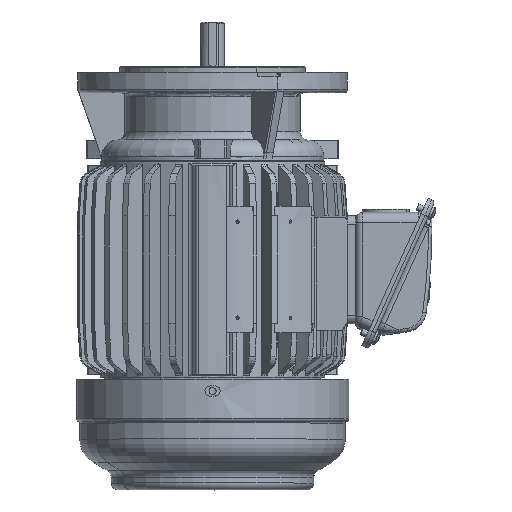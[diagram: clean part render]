
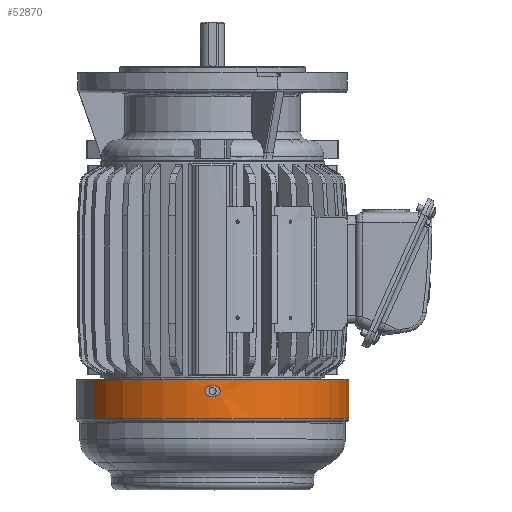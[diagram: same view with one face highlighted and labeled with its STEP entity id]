
A CAD part, top view. The second image highlights one B-rep face of the part: STEP entity #52870.
In plain terms, the highlighted cylindrical face has radius 80.75 mm (diameter 161.5 mm), a partial arc.
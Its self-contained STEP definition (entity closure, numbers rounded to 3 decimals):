
#49319=CARTESIAN_POINT('Axis2P3D Location',(0.,-65.,0.)) ;
#49323=CARTESIAN_POINT('Vertex',(-70.865,-65.,38.714)) ;
#49325=CARTESIAN_POINT('Vertex',(70.865,-65.,-38.714)) ;
#49367=CARTESIAN_POINT('Vertex',(70.865,-88.114,-38.714)) ;
#49370=CARTESIAN_POINT('Axis2P3D Location',(0.,-88.114,0.)) ;
#49374=CARTESIAN_POINT('Vertex',(-70.865,-88.114,38.714)) ;
#52376=CARTESIAN_POINT('Vertex',(-1.5,-69.,80.736)) ;
#52392=CARTESIAN_POINT('Vertex',(1.5,-69.,80.736)) ;
#52395=CARTESIAN_POINT('Axis2P3D Location',(0.,-69.,0.)) ;
#52432=CARTESIAN_POINT('Vertex',(1.5,-75.,80.736)) ;
#52436=CARTESIAN_POINT('Control Point',(1.5,-75.,80.736)) ;
#52437=CARTESIAN_POINT('Control Point',(2.185,-75.,80.723)) ;
#52438=CARTESIAN_POINT('Control Point',(2.869,-74.805,80.703)) ;
#52439=CARTESIAN_POINT('Control Point',(3.479,-74.414,80.677)) ;
#52440=CARTESIAN_POINT('Control Point',(4.173,-73.603,80.643)) ;
#52441=CARTESIAN_POINT('Control Point',(4.468,-72.609,80.626)) ;
#52442=CARTESIAN_POINT('Control Point',(4.518,-72.265,80.623)) ;
#52443=CARTESIAN_POINT('Control Point',(4.52,-71.052,80.624)) ;
#52444=CARTESIAN_POINT('Control Point',(3.927,-69.924,80.656)) ;
#52445=CARTESIAN_POINT('Control Point',(3.217,-69.307,80.693)) ;
#52446=CARTESIAN_POINT('Control Point',(2.359,-69.,80.72)) ;
#52447=CARTESIAN_POINT('Control Point',(1.5,-69.,80.736)) ;
#52465=CARTESIAN_POINT('Vertex',(-1.5,-75.,80.736)) ;
#52485=CARTESIAN_POINT('Control Point',(-1.5,-69.,80.736)) ;
#52486=CARTESIAN_POINT('Control Point',(-2.185,-69.,80.723)) ;
#52487=CARTESIAN_POINT('Control Point',(-2.869,-69.195,80.703)) ;
#52488=CARTESIAN_POINT('Control Point',(-3.479,-69.586,80.677)) ;
#52489=CARTESIAN_POINT('Control Point',(-4.173,-70.397,80.643)) ;
#52490=CARTESIAN_POINT('Control Point',(-4.468,-71.391,80.626)) ;
#52491=CARTESIAN_POINT('Control Point',(-4.518,-71.735,80.623)) ;
#52492=CARTESIAN_POINT('Control Point',(-4.52,-72.948,80.624)) ;
#52493=CARTESIAN_POINT('Control Point',(-3.927,-74.076,80.656)) ;
#52494=CARTESIAN_POINT('Control Point',(-3.217,-74.693,80.693)) ;
#52495=CARTESIAN_POINT('Control Point',(-2.359,-75.,80.72)) ;
#52496=CARTESIAN_POINT('Control Point',(-1.5,-75.,80.736)) ;
#52515=CARTESIAN_POINT('Axis2P3D Location',(0.,-75.,0.)) ;
#52791=CARTESIAN_POINT('Axis2P3D Location',(0.,-97.75,0.)) ;
#52796=CARTESIAN_POINT('Line Origine',(70.865,-76.557,-38.714)) ;
#52801=CARTESIAN_POINT('Line Origine',(-70.865,-76.557,38.714)) ;
#52813=CARTESIAN_POINT('Control Point',(72.538,-75.,-35.48)) ;
#52814=CARTESIAN_POINT('Control Point',(72.237,-75.,-36.095)) ;
#52815=CARTESIAN_POINT('Control Point',(71.93,-74.805,-36.707)) ;
#52816=CARTESIAN_POINT('Control Point',(71.648,-74.414,-37.248)) ;
#52817=CARTESIAN_POINT('Control Point',(71.324,-73.603,-37.863)) ;
#52818=CARTESIAN_POINT('Control Point',(71.184,-72.609,-38.123)) ;
#52819=CARTESIAN_POINT('Control Point',(71.16,-72.265,-38.168)) ;
#52820=CARTESIAN_POINT('Control Point',(71.16,-71.052,-38.169)) ;
#52821=CARTESIAN_POINT('Control Point',(71.44,-69.924,-37.645)) ;
#52822=CARTESIAN_POINT('Control Point',(71.773,-69.307,-37.018)) ;
#52823=CARTESIAN_POINT('Control Point',(72.161,-69.,-36.251)) ;
#52824=CARTESIAN_POINT('Control Point',(72.538,-69.,-35.48)) ;
#52825=CARTESIAN_POINT('Vertex',(72.538,-75.,-35.48)) ;
#52827=CARTESIAN_POINT('Vertex',(72.538,-69.,-35.48)) ;
#52830=CARTESIAN_POINT('Axis2P3D Location',(0.,-75.,0.)) ;
#52834=CARTESIAN_POINT('Vertex',(73.806,-75.,-32.761)) ;
#52838=CARTESIAN_POINT('Control Point',(73.806,-75.,-32.761)) ;
#52839=CARTESIAN_POINT('Control Point',(73.947,-75.,-32.442)) ;
#52840=CARTESIAN_POINT('Control Point',(74.087,-74.949,-32.122)) ;
#52841=CARTESIAN_POINT('Control Point',(74.221,-74.848,-31.81)) ;
#52842=CARTESIAN_POINT('Control Point',(74.591,-74.406,-30.94)) ;
#52843=CARTESIAN_POINT('Control Point',(74.856,-73.592,-30.289)) ;
#52844=CARTESIAN_POINT('Control Point',(74.964,-72.931,-30.014)) ;
#52845=CARTESIAN_POINT('Control Point',(75.04,-71.346,-29.827)) ;
#52846=CARTESIAN_POINT('Control Point',(74.753,-69.909,-30.543)) ;
#52847=CARTESIAN_POINT('Control Point',(74.487,-69.302,-31.199)) ;
#52848=CARTESIAN_POINT('Control Point',(74.151,-69.,-31.982)) ;
#52849=CARTESIAN_POINT('Control Point',(73.806,-69.,-32.761)) ;
#52850=CARTESIAN_POINT('Vertex',(73.806,-69.,-32.761)) ;
#52853=CARTESIAN_POINT('Axis2P3D Location',(0.,-69.,0.)) ;
#49320=DIRECTION('Axis2P3D Direction',(0.,1.,0.)) ;
#49371=DIRECTION('Axis2P3D Direction',(0.,1.,0.)) ;
#52396=DIRECTION('Axis2P3D Direction',(0.,1.,0.)) ;
#52516=DIRECTION('Axis2P3D Direction',(0.,-1.,0.)) ;
#52792=DIRECTION('Axis2P3D Direction',(0.,1.,0.)) ;
#52793=DIRECTION('Axis2P3D XDirection',(0.878,0.,-0.479)) ;
#52797=DIRECTION('Vector Direction',(0.,1.,0.)) ;
#52802=DIRECTION('Vector Direction',(0.,1.,0.)) ;
#52831=DIRECTION('Axis2P3D Direction',(0.,1.,0.)) ;
#52854=DIRECTION('Axis2P3D Direction',(0.,1.,0.)) ;
#49321=AXIS2_PLACEMENT_3D('Circle Axis2P3D',#49319,#49320,$) ;
#49372=AXIS2_PLACEMENT_3D('Circle Axis2P3D',#49370,#49371,$) ;
#52397=AXIS2_PLACEMENT_3D('Circle Axis2P3D',#52395,#52396,$) ;
#52517=AXIS2_PLACEMENT_3D('Circle Axis2P3D',#52515,#52516,$) ;
#52794=AXIS2_PLACEMENT_3D('Cylinder Axis2P3D',#52791,#52792,#52793) ;
#52832=AXIS2_PLACEMENT_3D('Circle Axis2P3D',#52830,#52831,$) ;
#52855=AXIS2_PLACEMENT_3D('Circle Axis2P3D',#52853,#52854,$) ;
#52807=ORIENTED_EDGE('',*,*,#52800,.T.) ;
#52808=ORIENTED_EDGE('',*,*,#49327,.F.) ;
#52809=ORIENTED_EDGE('',*,*,#52805,.F.) ;
#52810=ORIENTED_EDGE('',*,*,#49376,.T.) ;
#52859=ORIENTED_EDGE('',*,*,#52829,.F.) ;
#52860=ORIENTED_EDGE('',*,*,#52836,.T.) ;
#52861=ORIENTED_EDGE('',*,*,#52852,.T.) ;
#52862=ORIENTED_EDGE('',*,*,#52857,.T.) ;
#52865=ORIENTED_EDGE('',*,*,#52448,.F.) ;
#52866=ORIENTED_EDGE('',*,*,#52519,.T.) ;
#52867=ORIENTED_EDGE('',*,*,#52497,.F.) ;
#52868=ORIENTED_EDGE('',*,*,#52399,.T.) ;
#52863=FACE_BOUND('',#52858,.T.) ;
#52869=FACE_BOUND('',#52864,.T.) ;
#52798=VECTOR('Line Direction',#52797,1.) ;
#52803=VECTOR('Line Direction',#52802,1.) ;
#52870=ADVANCED_FACE('',(#52811,#52863,#52869),#52795,.T.) ;
#52435=B_SPLINE_CURVE_WITH_KNOTS('',5,(#52436,#52437,#52438,#52439,#52440,#52441,#52442,#52443,#52444,#52445,#52446,#52447),.UNSPECIFIED.,.F.,.U.,(6,3,3,6),(0.,4.841,7.261,13.333),.UNSPECIFIED.) ;
#52484=B_SPLINE_CURVE_WITH_KNOTS('',5,(#52485,#52486,#52487,#52488,#52489,#52490,#52491,#52492,#52493,#52494,#52495,#52496),.UNSPECIFIED.,.F.,.U.,(6,3,3,6),(0.,4.841,7.261,13.333),.UNSPECIFIED.) ;
#52812=B_SPLINE_CURVE_WITH_KNOTS('',5,(#52813,#52814,#52815,#52816,#52817,#52818,#52819,#52820,#52821,#52822,#52823,#52824),.UNSPECIFIED.,.F.,.U.,(6,3,3,6),(0.,4.841,7.261,13.333),.UNSPECIFIED.) ;
#52837=B_SPLINE_CURVE_WITH_KNOTS('',5,(#52838,#52839,#52840,#52841,#52842,#52843,#52844,#52845,#52846,#52847,#52848,#52849),.UNSPECIFIED.,.F.,.U.,(6,3,3,6),(0.,2.469,7.307,13.333),.UNSPECIFIED.) ;
#49322=CIRCLE('generated circle',#49321,80.75) ;
#49373=CIRCLE('generated circle',#49372,80.75) ;
#52398=CIRCLE('generated circle',#52397,80.75) ;
#52518=CIRCLE('generated circle',#52517,80.75) ;
#52833=CIRCLE('generated circle',#52832,80.75) ;
#52856=CIRCLE('generated circle',#52855,80.75) ;
#52795=CYLINDRICAL_SURFACE('generated cylinder',#52794,80.75) ;
#49327=EDGE_CURVE('',#49324,#49326,#49322,.T.) ;
#49376=EDGE_CURVE('',#49375,#49368,#49373,.T.) ;
#52399=EDGE_CURVE('',#52377,#52393,#52398,.T.) ;
#52448=EDGE_CURVE('',#52433,#52393,#52435,.T.) ;
#52497=EDGE_CURVE('',#52377,#52466,#52484,.T.) ;
#52519=EDGE_CURVE('',#52433,#52466,#52518,.T.) ;
#52800=EDGE_CURVE('',#49368,#49326,#52799,.T.) ;
#52805=EDGE_CURVE('',#49375,#49324,#52804,.T.) ;
#52829=EDGE_CURVE('',#52826,#52828,#52812,.T.) ;
#52836=EDGE_CURVE('',#52826,#52835,#52833,.F.) ;
#52852=EDGE_CURVE('',#52835,#52851,#52837,.T.) ;
#52857=EDGE_CURVE('',#52851,#52828,#52856,.T.) ;
#52806=EDGE_LOOP('',(#52807,#52808,#52809,#52810)) ;
#52858=EDGE_LOOP('',(#52859,#52860,#52861,#52862)) ;
#52864=EDGE_LOOP('',(#52865,#52866,#52867,#52868)) ;
#52811=FACE_OUTER_BOUND('',#52806,.T.) ;
#52799=LINE('Line',#52796,#52798) ;
#52804=LINE('Line',#52801,#52803) ;
#49324=VERTEX_POINT('',#49323) ;
#49326=VERTEX_POINT('',#49325) ;
#49368=VERTEX_POINT('',#49367) ;
#49375=VERTEX_POINT('',#49374) ;
#52377=VERTEX_POINT('',#52376) ;
#52393=VERTEX_POINT('',#52392) ;
#52433=VERTEX_POINT('',#52432) ;
#52466=VERTEX_POINT('',#52465) ;
#52826=VERTEX_POINT('',#52825) ;
#52828=VERTEX_POINT('',#52827) ;
#52835=VERTEX_POINT('',#52834) ;
#52851=VERTEX_POINT('',#52850) ;
